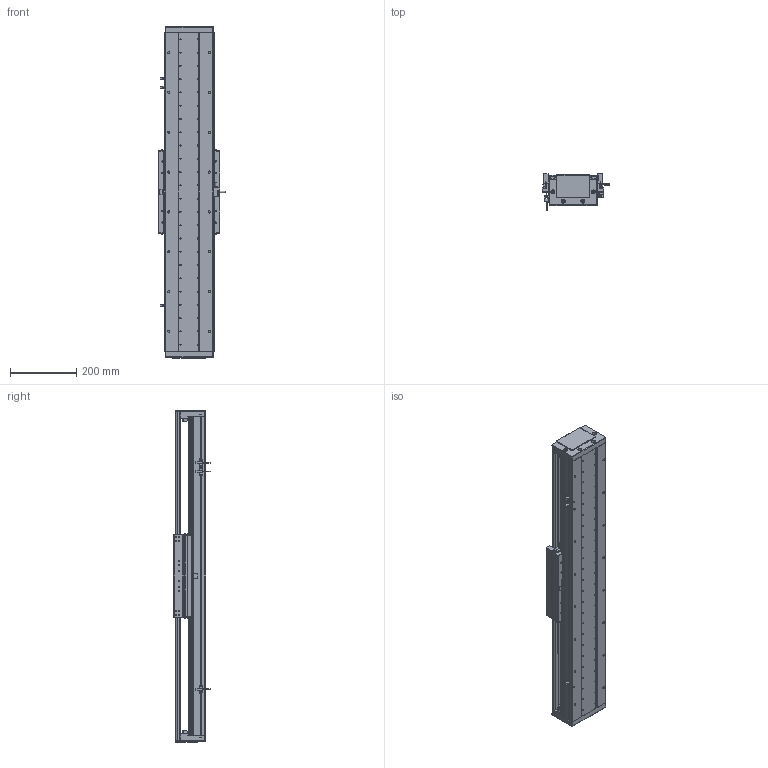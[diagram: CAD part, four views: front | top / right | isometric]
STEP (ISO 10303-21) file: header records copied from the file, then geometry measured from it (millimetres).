
FILE_DESCRIPTION (( 'STEP AP203' ), '1' );
FILE_NAME ('DA-C145-C3-T660-C010-0.2 眻盄萇儂.STEP', '2025-08-14T01:18:33', ( '' ), ( '' ), 'SwSTEP 2.0', 'SolidWorks 2019', '' );
FILE_SCHEMA (( 'CONFIG_CONTROL_DESIGN' ));
Length unit declared in the file: millimetre
Products named in the file (29): IU-CU145-L-00 菁釱(L960); 葩璃 PM-T45^DA-C145-C3-T-C010-0.2; 复件 纯铜油杯 6x6mm^CU145-W 滚珠滑台; 复件 DA95-DB-00  挡板^CU145-W 滚珠滑台; 复件 DA145-C3-YB-B-00 压板B^CU145-W 滚珠滑台; 复件 DA95-MFP-01 密封片^CU145-W 滚珠滑台; 葩璃 DA145-T-003-00 裔啣^DA-C145-C3-T-C010-0.2; 葩璃 XD-U-02L 棠掑喜^DA-C145-C3-T-C010-0.2; 葩璃 鞠褒情蹟譫 M3^DA-C145-C3-T-C010-0.2; 复件 DA145-C3-YB-A-00 压板A^CU145-W 滚珠滑台; 葩璃 DA145-DG-H-N-00 傷裔^DA-C145-C3-T-C010-0.2; 复件 内六角平端紧定螺钉 GB.T77-2000 M5×10^CU145-W 滚珠滑台; 葩璃 DA95-GT-T-00^IU-CU145-L 菁釱絳寢; DA-C145-C3-T660-C010-0.2 眻盄萇儂; 66245-CU145-HT-W-00 賑雄怢啣(3D芞祧)(00); 复件 半圆头内六角螺钉 M3×6^CU145-W 滚珠滑台; 葩璃 DA95-HXJ-00 遣喳砎蝶^DA-C145-C3-T-C010-0.2; 葩璃 CKMA01-W060-TRL^DA-C145-C3-T-C010-0.2; 葩璃 DMA-010-0.2 黍杅芛^DA-C145-C3-T-C010-0.2; CU145-W 幗紩賑怢; 葩璃 DA145-C3-DP-A-00 菜えA^CU145-W 幗紩賑怢; 复件 DA145-C3-DK-00 挡块^CU145-W 滚珠滑台; 葩璃 DA145-C3-DP-B-00 菜えB^CU145-W 幗紩賑怢; 复件 DA145-GYP-00 光电感应片^DA-C145-C3-T-C010-0.2; 复件 DA95-HK-GT-00 滑块钢轨^CU145-W-00 一体化滑动台板; 葩璃 CKM03-W060-C1C2-TP-0.2^DA-C145-C3-T-C010-0.2; TAY01-M8; CU145-W-00 珨极趙賑雄怢啣; IU-CU145-L 菁釱絳寢
Assembly tree (98 placements, depth 4):
  DA-C145-C3-T660-C010-0.2 眻盄萇儂
    IU-CU145-L 菁釱絳寢
      IU-CU145-L-00 菁釱(L960)
      葩璃 DA95-GT-T-00^IU-CU145-L 菁釱絳寢  x4
    CU145-W 幗紩賑怢
      CU145-W-00 珨极趙賑雄怢啣
        66245-CU145-HT-W-00 賑雄怢啣(3D芞祧)(00)
        复件 DA95-HK-GT-00 滑块钢轨^CU145-W-00 一体化滑动台板  x8
      复件 DA95-MFP-01 密封片^CU145-W 滚珠滑台  x8
      复件 DA95-DB-00  挡板^CU145-W 滚珠滑台  x8
      复件 内六角平端紧定螺钉 GB.T77-2000 M5×10^CU145-W 滚珠滑台  x4
      复件 纯铜油杯 6x6mm^CU145-W 滚珠滑台  x4
      复件 半圆头内六角螺钉 M3×6^CU145-W 滚珠滑台  x16
      复件 DA145-C3-DK-00 挡块^CU145-W 滚珠滑台  x4
      葩璃 DA145-C3-DP-B-00 菜えB^CU145-W 幗紩賑怢  x2
      复件 DA145-C3-YB-B-00 压板B^CU145-W 滚珠滑台  x2
      葩璃 DA145-C3-DP-A-00 菜えA^CU145-W 幗紩賑怢  x3
      复件 DA145-C3-YB-A-00 压板A^CU145-W 滚珠滑台  x3
      TAY01-M8  x4
    葩璃 CKMA01-W060-TRL^DA-C145-C3-T-C010-0.2
    葩璃 PM-T45^DA-C145-C3-T-C010-0.2  x3
    葩璃 XD-U-02L 棠掑喜^DA-C145-C3-T-C010-0.2
    葩璃 DA145-DG-H-N-00 傷裔^DA-C145-C3-T-C010-0.2  x2
    葩璃 DA145-T-003-00 裔啣^DA-C145-C3-T-C010-0.2
    葩璃 DA95-HXJ-00 遣喳砎蝶^DA-C145-C3-T-C010-0.2  x4
    复件 DA145-GYP-00 光电感应片^DA-C145-C3-T-C010-0.2
    葩璃 DMA-010-0.2 黍杅芛^DA-C145-C3-T-C010-0.2
    葩璃 CKM03-W060-C1C2-TP-0.2^DA-C145-C3-T-C010-0.2
    葩璃 鞠褒情蹟譫 M3^DA-C145-C3-T-C010-0.2  x8
Bounding box: 203.5 x 108.45 x 1000 mm (x, y, z)
Volume: 6737382.3 mm3; surface area: 1950741.1 mm2
Topology: 95 solids, 127 shells, 3926 faces, 10401 edges, 6412 vertices
Faces by surface type: cylinder 1637, plane 1573, cone 626, torus 86, sphere 4
Entity records: 89091 total; most frequent: CARTESIAN_POINT 22020, DIRECTION 13135, ORIENTED_EDGE 12800, EDGE_CURVE 6400, AXIS2_PLACEMENT_3D 4884, VERTEX_POINT 4101, VECTOR 3367, LINE 3367
